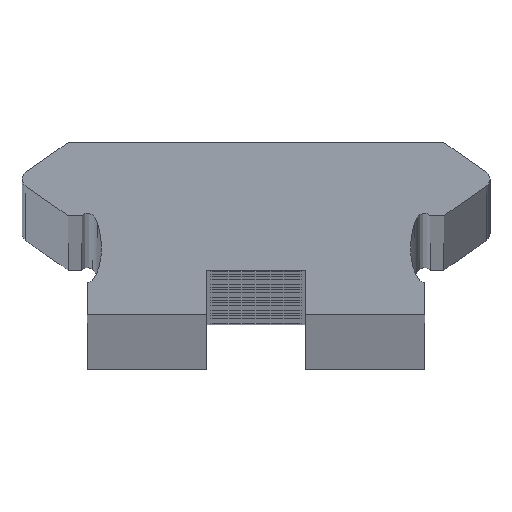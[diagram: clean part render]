
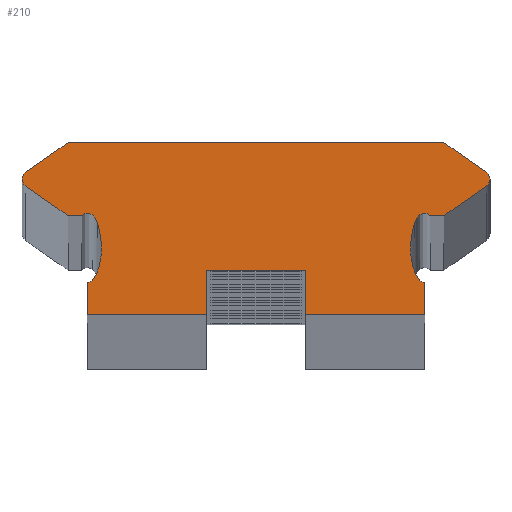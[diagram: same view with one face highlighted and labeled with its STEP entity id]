
A CAD part, top view. The second image highlights one B-rep face of the part: STEP entity #210.
In plain terms, the highlighted planar face has unit normal (0, 0, 1).
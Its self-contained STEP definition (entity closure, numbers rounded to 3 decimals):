
#210=ADVANCED_FACE('',(#546),#547,.T.);
#546=FACE_OUTER_BOUND('',#883,.T.);
#547=PLANE('',#884);
#883=EDGE_LOOP('',(#1916,#1917,#1918,#1919,#1920,#1921,#1922,#1923,#1924,#1925,#1926,#1927,#1928,#1929,#1930,#1931,#1932,#1933,#1934,#1935,#1936,#1937,#1938,#1939,#1940,#1941,#1942,#1943,#1944,#1945));
#884=AXIS2_PLACEMENT_3D('',#1946,#1947,#1948);
#1916=ORIENTED_EDGE('',*,*,#2250,.F.);
#1917=ORIENTED_EDGE('',*,*,#2322,.F.);
#1918=ORIENTED_EDGE('',*,*,#2319,.F.);
#1919=ORIENTED_EDGE('',*,*,#2316,.F.);
#1920=ORIENTED_EDGE('',*,*,#2313,.F.);
#1921=ORIENTED_EDGE('',*,*,#2310,.F.);
#1922=ORIENTED_EDGE('',*,*,#2307,.F.);
#1923=ORIENTED_EDGE('',*,*,#2304,.F.);
#1924=ORIENTED_EDGE('',*,*,#2301,.F.);
#1925=ORIENTED_EDGE('',*,*,#1983,.F.);
#1926=ORIENTED_EDGE('',*,*,#2300,.F.);
#1927=ORIENTED_EDGE('',*,*,#2296,.F.);
#1928=ORIENTED_EDGE('',*,*,#2293,.F.);
#1929=ORIENTED_EDGE('',*,*,#2290,.F.);
#1930=ORIENTED_EDGE('',*,*,#2287,.F.);
#1931=ORIENTED_EDGE('',*,*,#2284,.F.);
#1932=ORIENTED_EDGE('',*,*,#1989,.F.);
#1933=ORIENTED_EDGE('',*,*,#2282,.F.);
#1934=ORIENTED_EDGE('',*,*,#2279,.F.);
#1935=ORIENTED_EDGE('',*,*,#2276,.F.);
#1936=ORIENTED_EDGE('',*,*,#1991,.F.);
#1937=ORIENTED_EDGE('',*,*,#2275,.F.);
#1938=ORIENTED_EDGE('',*,*,#2271,.F.);
#1939=ORIENTED_EDGE('',*,*,#2268,.F.);
#1940=ORIENTED_EDGE('',*,*,#2265,.F.);
#1941=ORIENTED_EDGE('',*,*,#2262,.F.);
#1942=ORIENTED_EDGE('',*,*,#2259,.F.);
#1943=ORIENTED_EDGE('',*,*,#1997,.F.);
#1944=ORIENTED_EDGE('',*,*,#2257,.F.);
#1945=ORIENTED_EDGE('',*,*,#2254,.F.);
#1946=CARTESIAN_POINT('',(0.,5.521,1886.0));
#1947=DIRECTION('',(0.0,0.0,1.0));
#1948=DIRECTION('',(1.0,0.0,0.0));
#1983=EDGE_CURVE('',#2324,#2327,#2328,.T.);
#1989=EDGE_CURVE('',#2337,#2333,#2339,.T.);
#1991=EDGE_CURVE('',#2340,#2343,#2344,.T.);
#1997=EDGE_CURVE('',#2353,#2349,#2355,.T.);
#2250=EDGE_CURVE('',#2776,#2777,#2778,.T.);
#2254=EDGE_CURVE('',#2777,#2784,#2785,.T.);
#2257=EDGE_CURVE('',#2784,#2353,#2789,.T.);
#2259=EDGE_CURVE('',#2349,#2791,#2792,.T.);
#2262=EDGE_CURVE('',#2791,#2796,#2797,.T.);
#2265=EDGE_CURVE('',#2796,#2801,#2802,.T.);
#2268=EDGE_CURVE('',#2801,#2806,#2807,.T.);
#2271=EDGE_CURVE('',#2806,#2811,#2812,.T.);
#2275=EDGE_CURVE('',#2811,#2340,#2817,.T.);
#2276=EDGE_CURVE('',#2343,#2818,#2819,.T.);
#2279=EDGE_CURVE('',#2818,#2823,#2824,.T.);
#2282=EDGE_CURVE('',#2823,#2337,#2828,.T.);
#2284=EDGE_CURVE('',#2333,#2830,#2831,.T.);
#2287=EDGE_CURVE('',#2830,#2835,#2836,.T.);
#2290=EDGE_CURVE('',#2835,#2840,#2841,.T.);
#2293=EDGE_CURVE('',#2840,#2845,#2846,.T.);
#2296=EDGE_CURVE('',#2845,#2850,#2851,.T.);
#2300=EDGE_CURVE('',#2850,#2324,#2856,.T.);
#2301=EDGE_CURVE('',#2327,#2857,#2858,.T.);
#2304=EDGE_CURVE('',#2857,#2862,#2863,.T.);
#2307=EDGE_CURVE('',#2862,#2867,#2868,.T.);
#2310=EDGE_CURVE('',#2867,#2872,#2873,.T.);
#2313=EDGE_CURVE('',#2872,#2877,#2878,.T.);
#2316=EDGE_CURVE('',#2877,#2882,#2883,.T.);
#2319=EDGE_CURVE('',#2882,#2887,#2888,.T.);
#2322=EDGE_CURVE('',#2887,#2776,#2892,.T.);
#2324=VERTEX_POINT('',#2894);
#2327=VERTEX_POINT('',#2898);
#2328=CIRCLE('',#2899,4.775);
#2333=VERTEX_POINT('',#2905);
#2337=VERTEX_POINT('',#2910);
#2339=CIRCLE('',#2913,0.5);
#2340=VERTEX_POINT('',#2914);
#2343=VERTEX_POINT('',#2918);
#2344=CIRCLE('',#2919,0.5);
#2349=VERTEX_POINT('',#2925);
#2353=VERTEX_POINT('',#2930);
#2355=CIRCLE('',#2933,4.775);
#2776=VERTEX_POINT('',#3438);
#2777=VERTEX_POINT('',#3439);
#2778=LINE('',#3440,#3441);
#2784=VERTEX_POINT('',#3450);
#2785=CIRCLE('',#3451,0.406);
#2789=CIRCLE('',#3456,2.497);
#2791=VERTEX_POINT('',#3458);
#2792=CIRCLE('',#3459,4.775);
#2796=VERTEX_POINT('',#3464);
#2797=CIRCLE('',#3465,1.1);
#2801=VERTEX_POINT('',#3470);
#2802=CIRCLE('',#3471,0.461);
#2806=VERTEX_POINT('',#3476);
#2807=LINE('',#3477,#3478);
#2811=VERTEX_POINT('',#3484);
#2812=LINE('',#3485,#3486);
#2817=CIRCLE('',#3493,0.5);
#2818=VERTEX_POINT('',#3494);
#2819=LINE('',#3495,#3496);
#2823=VERTEX_POINT('',#3502);
#2824=LINE('',#3503,#3504);
#2828=LINE('',#3510,#3511);
#2830=VERTEX_POINT('',#3514);
#2831=CIRCLE('',#3515,0.5);
#2835=VERTEX_POINT('',#3520);
#2836=LINE('',#3521,#3522);
#2840=VERTEX_POINT('',#3528);
#2841=LINE('',#3529,#3530);
#2845=VERTEX_POINT('',#3536);
#2846=CIRCLE('',#3537,0.461);
#2850=VERTEX_POINT('',#3542);
#2851=CIRCLE('',#3543,1.1);
#2856=CIRCLE('',#3549,4.775);
#2857=VERTEX_POINT('',#3550);
#2858=CIRCLE('',#3551,2.497);
#2862=VERTEX_POINT('',#3556);
#2863=CIRCLE('',#3557,0.406);
#2867=VERTEX_POINT('',#3562);
#2868=LINE('',#3563,#3564);
#2872=VERTEX_POINT('',#3570);
#2873=LINE('',#3571,#3572);
#2877=VERTEX_POINT('',#3578);
#2878=LINE('',#3579,#3580);
#2882=VERTEX_POINT('',#3586);
#2883=LINE('',#3587,#3588);
#2887=VERTEX_POINT('',#3594);
#2888=LINE('',#3595,#3596);
#2892=LINE('',#3602,#3603);
#2894=CARTESIAN_POINT('',(9.339,4.041,1886.0));
#2898=CARTESIAN_POINT('',(9.388,3.361,1886.0));
#2899=AXIS2_PLACEMENT_3D('',#3607,#3608,#3609);
#2905=CARTESIAN_POINT('',(14.133,8.2,1886.0));
#2910=CARTESIAN_POINT('',(13.92,8.61,1886.0));
#2913=AXIS2_PLACEMENT_3D('',#3619,#3620,#3621);
#2914=CARTESIAN_POINT('',(-14.133,8.2,1886.0));
#2918=CARTESIAN_POINT('',(-13.92,8.61,1886.0));
#2919=AXIS2_PLACEMENT_3D('',#3623,#3624,#3625);
#2925=CARTESIAN_POINT('',(-9.339,4.041,1886.0));
#2930=CARTESIAN_POINT('',(-9.388,3.361,1886.0));
#2933=AXIS2_PLACEMENT_3D('',#3635,#3636,#3637);
#3438=CARTESIAN_POINT('',(-10.2,0.0,1886.0));
#3439=CARTESIAN_POINT('',(-10.2,1.95,1886.0));
#3440=CARTESIAN_POINT('',(-10.2,1.95,1886.0));
#3441=VECTOR('',#4226,1.0);
#3450=CARTESIAN_POINT('',(-9.898,2.071,1886.0));
#3451=AXIS2_PLACEMENT_3D('',#4230,#4231,#4232);
#3456=AXIS2_PLACEMENT_3D('',#4237,#4238,#4239);
#3458=CARTESIAN_POINT('',(-9.574,5.521,1886.0));
#3459=AXIS2_PLACEMENT_3D('',#4243,#4244,#4245);
#3464=CARTESIAN_POINT('',(-9.904,6.06,1886.0));
#3465=AXIS2_PLACEMENT_3D('',#4250,#4251,#4252);
#3470=CARTESIAN_POINT('',(-10.529,5.99,1886.0));
#3471=AXIS2_PLACEMENT_3D('',#4257,#4258,#4259);
#3476=CARTESIAN_POINT('',(-11.349,5.99,1886.0));
#3477=CARTESIAN_POINT('',(-11.349,5.99,1886.0));
#3478=VECTOR('',#4264,1.0);
#3484=CARTESIAN_POINT('',(-13.92,7.79,1886.0));
#3485=CARTESIAN_POINT('',(-13.92,7.79,1886.0));
#3486=VECTOR('',#4267,1.0);
#3493=AXIS2_PLACEMENT_3D('',#4273,#4274,#4275);
#3494=CARTESIAN_POINT('',(-11.349,10.41,1886.0));
#3495=CARTESIAN_POINT('',(-11.349,10.41,1886.0));
#3496=VECTOR('',#4276,1.0);
#3502=CARTESIAN_POINT('',(11.349,10.41,1886.0));
#3503=CARTESIAN_POINT('',(11.349,10.41,1886.0));
#3504=VECTOR('',#4279,1.0);
#3510=CARTESIAN_POINT('',(13.92,8.61,1886.0));
#3511=VECTOR('',#4282,1.0);
#3514=CARTESIAN_POINT('',(13.92,7.79,1886.0));
#3515=AXIS2_PLACEMENT_3D('',#4284,#4285,#4286);
#3520=CARTESIAN_POINT('',(11.349,5.99,1886.0));
#3521=CARTESIAN_POINT('',(11.349,5.99,1886.0));
#3522=VECTOR('',#4291,1.0);
#3528=CARTESIAN_POINT('',(10.529,5.99,1886.0));
#3529=CARTESIAN_POINT('',(11.349,5.99,1886.0));
#3530=VECTOR('',#4294,1.0);
#3536=CARTESIAN_POINT('',(9.904,6.06,1886.0));
#3537=AXIS2_PLACEMENT_3D('',#4297,#4298,#4299);
#3542=CARTESIAN_POINT('',(9.574,5.521,1886.0));
#3543=AXIS2_PLACEMENT_3D('',#4304,#4305,#4306);
#3549=AXIS2_PLACEMENT_3D('',#4314,#4315,#4316);
#3550=CARTESIAN_POINT('',(9.898,2.071,1886.0));
#3551=AXIS2_PLACEMENT_3D('',#4317,#4318,#4319);
#3556=CARTESIAN_POINT('',(10.2,1.95,1886.0));
#3557=AXIS2_PLACEMENT_3D('',#4324,#4325,#4326);
#3562=CARTESIAN_POINT('',(10.2,0.0,1886.0));
#3563=CARTESIAN_POINT('',(10.2,1.95,1886.0));
#3564=VECTOR('',#4331,1.0);
#3570=CARTESIAN_POINT('',(3.0,0.0,1886.0));
#3571=CARTESIAN_POINT('',(3.0,0.0,1886.0));
#3572=VECTOR('',#4334,1.0);
#3578=CARTESIAN_POINT('',(3.0,2.7,1886.0));
#3579=CARTESIAN_POINT('',(3.0,2.7,1886.0));
#3580=VECTOR('',#4337,1.0);
#3586=CARTESIAN_POINT('',(-3.0,2.7,1886.0));
#3587=CARTESIAN_POINT('',(-3.0,2.7,1886.0));
#3588=VECTOR('',#4340,1.0);
#3594=CARTESIAN_POINT('',(-3.0,0.0,1886.0));
#3595=CARTESIAN_POINT('',(-3.0,0.0,1886.0));
#3596=VECTOR('',#4343,1.0);
#3602=CARTESIAN_POINT('',(-10.2,0.0,1886.0));
#3603=VECTOR('',#4346,1.0);
#3607=CARTESIAN_POINT('',(14.114,4.041,1886.0));
#3608=DIRECTION('',(0.0,0.0,1.0));
#3609=DIRECTION('',(1.0,0.0,0.0));
#3619=CARTESIAN_POINT('',(13.633,8.2,1886.0));
#3620=DIRECTION('',(0.0,0.0,-1.0));
#3621=DIRECTION('',(1.0,0.0,0.0));
#3623=CARTESIAN_POINT('',(-13.633,8.2,1886.0));
#3624=DIRECTION('',(0.0,0.0,-1.0));
#3625=DIRECTION('',(1.0,0.0,0.0));
#3635=CARTESIAN_POINT('',(-14.114,4.041,1886.0));
#3636=DIRECTION('',(0.0,0.0,1.0));
#3637=DIRECTION('',(1.0,0.0,0.0));
#4226=DIRECTION('',(0.0,1.0,0.0));
#4230=CARTESIAN_POINT('',(-10.188,2.356,1886.0));
#4231=DIRECTION('',(0.0,0.0,1.0));
#4232=DIRECTION('',(1.0,0.0,0.0));
#4237=CARTESIAN_POINT('',(-11.874,3.599,1886.0));
#4238=DIRECTION('',(0.0,0.0,1.0));
#4239=DIRECTION('',(1.0,0.0,0.0));
#4243=CARTESIAN_POINT('',(-14.114,4.041,1886.0));
#4244=DIRECTION('',(0.0,0.0,1.0));
#4245=DIRECTION('',(1.0,0.0,0.0));
#4250=CARTESIAN_POINT('',(-10.638,5.241,1886.0));
#4251=DIRECTION('',(0.0,0.0,1.0));
#4252=DIRECTION('',(1.0,0.0,0.0));
#4257=CARTESIAN_POINT('',(-10.179,5.691,1886.0));
#4258=DIRECTION('',(0.0,0.0,1.0));
#4259=DIRECTION('',(1.0,0.0,0.0));
#4264=DIRECTION('',(-1.0,-0.0,-0.0));
#4267=DIRECTION('',(-0.819,0.574,0.0));
#4273=CARTESIAN_POINT('',(-13.633,8.2,1886.0));
#4274=DIRECTION('',(0.0,0.0,-1.0));
#4275=DIRECTION('',(1.0,0.0,0.0));
#4276=DIRECTION('',(0.819,0.574,0.0));
#4279=DIRECTION('',(1.0,0.0,0.0));
#4282=DIRECTION('',(0.819,-0.574,0.0));
#4284=CARTESIAN_POINT('',(13.633,8.2,1886.0));
#4285=DIRECTION('',(0.0,0.0,-1.0));
#4286=DIRECTION('',(1.0,0.0,0.0));
#4291=DIRECTION('',(-0.819,-0.574,-0.0));
#4294=DIRECTION('',(-1.0,0.0,0.0));
#4297=CARTESIAN_POINT('',(10.179,5.691,1886.0));
#4298=DIRECTION('',(0.0,0.0,1.0));
#4299=DIRECTION('',(1.0,0.0,0.0));
#4304=CARTESIAN_POINT('',(10.638,5.241,1886.0));
#4305=DIRECTION('',(0.0,0.0,1.0));
#4306=DIRECTION('',(1.0,0.0,0.0));
#4314=CARTESIAN_POINT('',(14.114,4.041,1886.0));
#4315=DIRECTION('',(0.0,0.0,1.0));
#4316=DIRECTION('',(1.0,0.0,0.0));
#4317=CARTESIAN_POINT('',(11.874,3.599,1886.0));
#4318=DIRECTION('',(0.0,0.0,1.0));
#4319=DIRECTION('',(1.0,0.0,0.0));
#4324=CARTESIAN_POINT('',(10.188,2.356,1886.0));
#4325=DIRECTION('',(0.0,0.0,1.0));
#4326=DIRECTION('',(1.0,0.0,0.0));
#4331=DIRECTION('',(0.0,-1.0,0.0));
#4334=DIRECTION('',(-1.0,-0.0,-0.0));
#4337=DIRECTION('',(0.0,1.0,0.0));
#4340=DIRECTION('',(-1.0,-0.0,-0.0));
#4343=DIRECTION('',(-0.0,-1.0,-0.0));
#4346=DIRECTION('',(-1.0,-0.0,-0.0));
